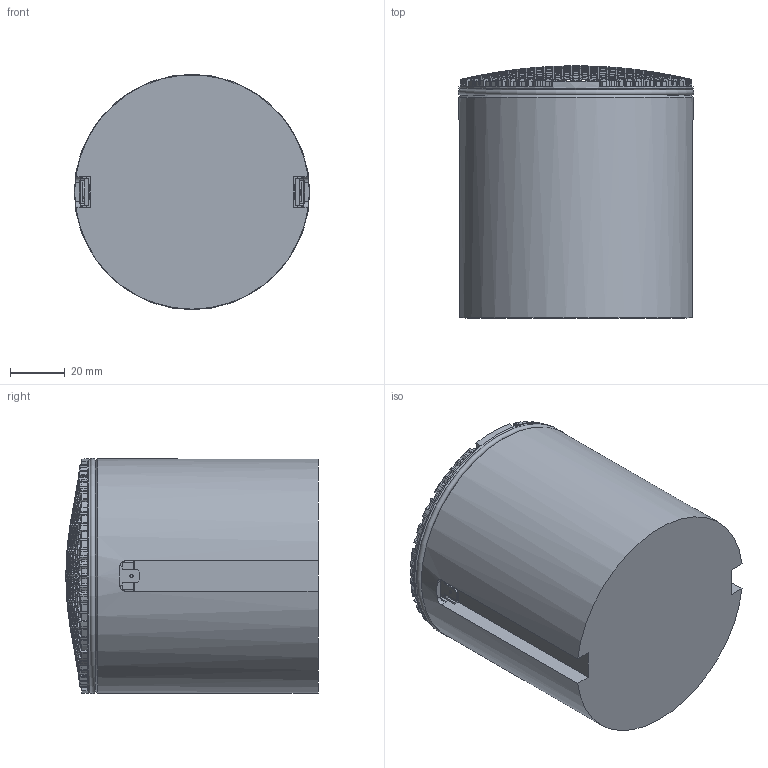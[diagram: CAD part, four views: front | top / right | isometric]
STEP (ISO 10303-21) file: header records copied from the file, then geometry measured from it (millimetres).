
FILE_DESCRIPTION (( 'STEP AP214' ), '1' );
FILE_NAME ('BD051-06-585_reduced.STEP', '2025-03-18T08:23:20', ( '' ), ( '' ), 'SwSTEP 2.0', 'SolidWorks 2015', '' );
FILE_SCHEMA (( 'AUTOMOTIVE_DESIGN' ));
Length unit declared in the file: millimetre
Products named in the file (12): KRB_01571_BD051_reduced; TRM_01558_4,8gerade_reduced; DM_01435_050_reduced; VOL_01572_BD051_reduced; TRM_01464_reduced; TRM_01560_2,8gerade_reduced; TRM_01557_4,8bladegerade_reduced; GWS_02292_BD051_reduced; OHR_01579_BD051_reduced; TRM_01559_2,8bladegerade_reduced; GIT_01573_086_reduced; BD051-06-585_reduced
Assembly tree (12 placements, depth 3):
  BD051-06-585_reduced
    KRB_01571_BD051_reduced
    VOL_01572_BD051_reduced
    DM_01435_050_reduced
    GWS_02292_BD051_reduced
    GIT_01573_086_reduced
    OHR_01579_BD051_reduced
    TRM_01558_4,8gerade_reduced
      TRM_01464_reduced
      TRM_01557_4,8bladegerade_reduced
    TRM_01560_2,8gerade_reduced
      TRM_01464_reduced
      TRM_01559_2,8bladegerade_reduced
Bounding box: 86 x 92.09 x 86 mm (x, y, z)
Volume: 254177.7 mm3; surface area: 88456.4 mm2
Topology: 10 solids, 10 shells, 3325 faces, 9870 edges, 6515 vertices
Faces by surface type: plane 2849, cylinder 315, bspline 68, torus 65, sphere 18, cone 10
Full cylindrical faces by diameter (mm): 1 x2, 2.8 x2, 54.5 x1, 61 x1, 73 x2, 75 x1, 81.9 x1, 82.3 x1, 85.6 x2
Entity records: 125355 total; most frequent: CARTESIAN_POINT 45739, ORIENTED_EDGE 19618, DIRECTION 11222, EDGE_CURVE 9809, VERTEX_POINT 6501, B_SPLINE_CURVE_WITH_KNOTS 5638, EDGE_LOOP 4122, AXIS2_PLACEMENT_3D 3807
